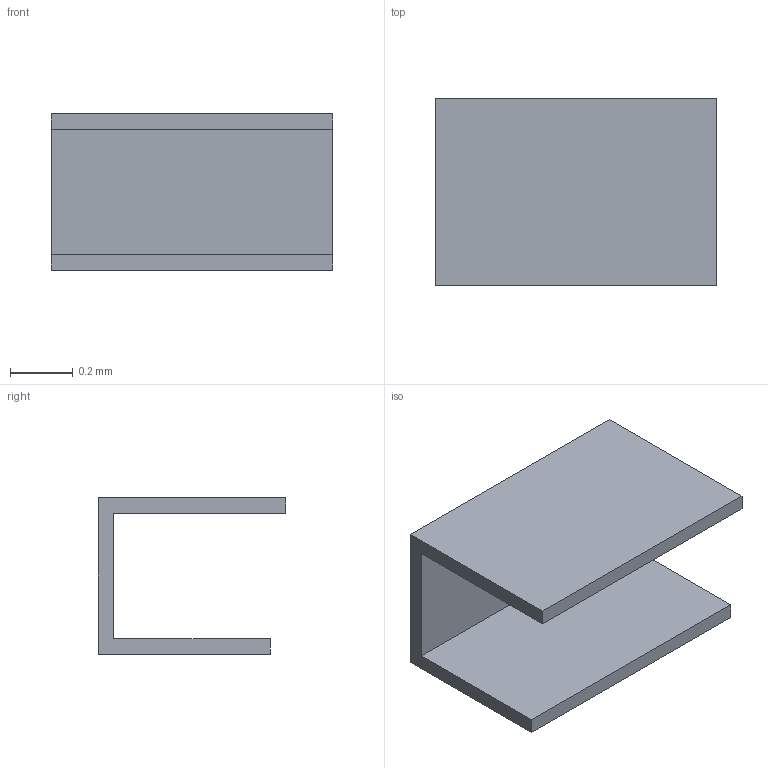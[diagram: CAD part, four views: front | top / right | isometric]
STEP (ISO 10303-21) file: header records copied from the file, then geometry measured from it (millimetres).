
FILE_DESCRIPTION(/* description */ ('STEP AP242 Edition 2','CAx-IF Rec.Pracs.---Representation and Presentation of Product Manufacturing Information (PMI)---4.0---2014-10-13','CAx-IF Rec.Pracs.---3D Tessellated Geometry---0.4---2014-09-14','2;1','CAx-IF Rec.Pracs.---User Defined Attributes---1.5---2016-08-15'),/* implementation_level */ '2;1');
FILE_NAME(/* name */ 'Assembly 1 - RES-ARRAY-SMD_1206-8P-L5.1-W3.1-BL~RES-ARRAY-SMD_1206-8P-L5.1-W3.1-H0.55-BL~nxQB_1 (1)',/* time_stamp */ '2026-04-02T09:55:20Z',/* author */ (''),/* organization */ (''),/* preprocessor_version */ 'ST-DEVELOPER v20',/* originating_system */ 'ONSHAPE BY PTC INC, 1.212',/* authorisation */ ' ');
FILE_SCHEMA (('AP242_MANAGED_MODEL_BASED_3D_ENGINEERING_MIM_LF { 1 0 10303 442 3 1 4 }'));
Length unit declared in the file: metre
Products named in the file (1): RES-ARRAY-SMD_1206-8P-L5.1-W3.1-BL~RES-ARRAY-SMD_1206-8P-L5.1-W3.1-H0.
55-BL~nxQB_1
Bounding box: 0.9 x 0.6 x 0.5 mm (x, y, z)
Volume: 0.1 mm3; surface area: 3 mm2
Topology: 1 solids, 1 shells, 10 faces, 24 edges, 16 vertices
Faces by surface type: plane 10
Entity records: 381 total; most frequent: CARTESIAN_POINT 51, ORIENTED_EDGE 48, DIRECTION 46, EDGE_CURVE 24, LINE 24, VECTOR 24, VERTEX_POINT 16, PRESENTATION_STYLE_ASSIGNMENT 11
